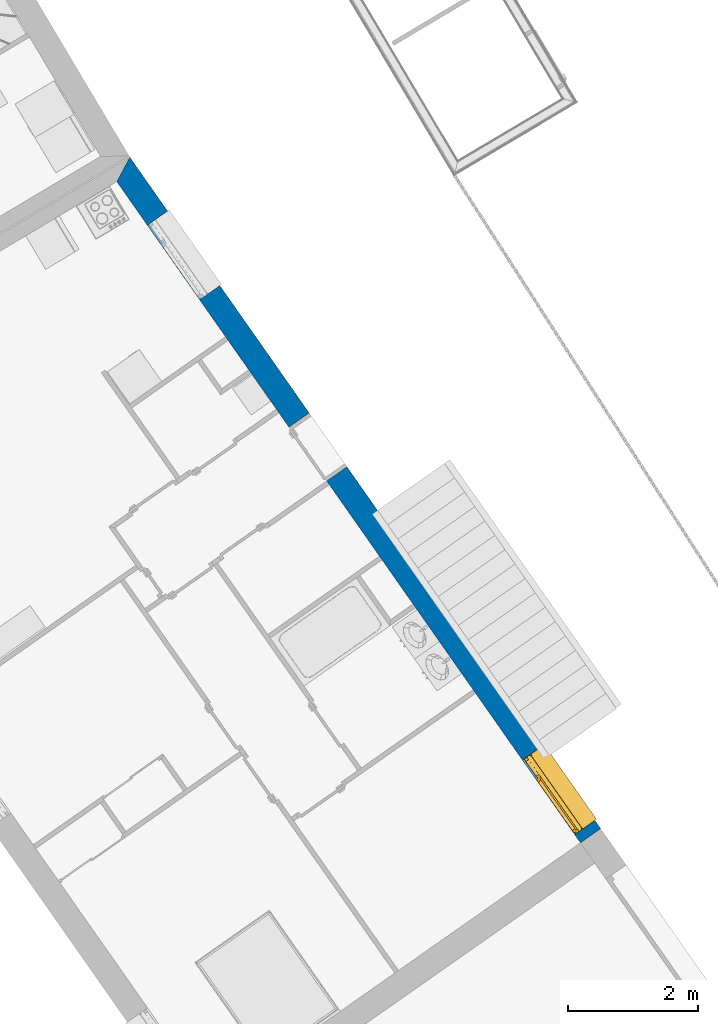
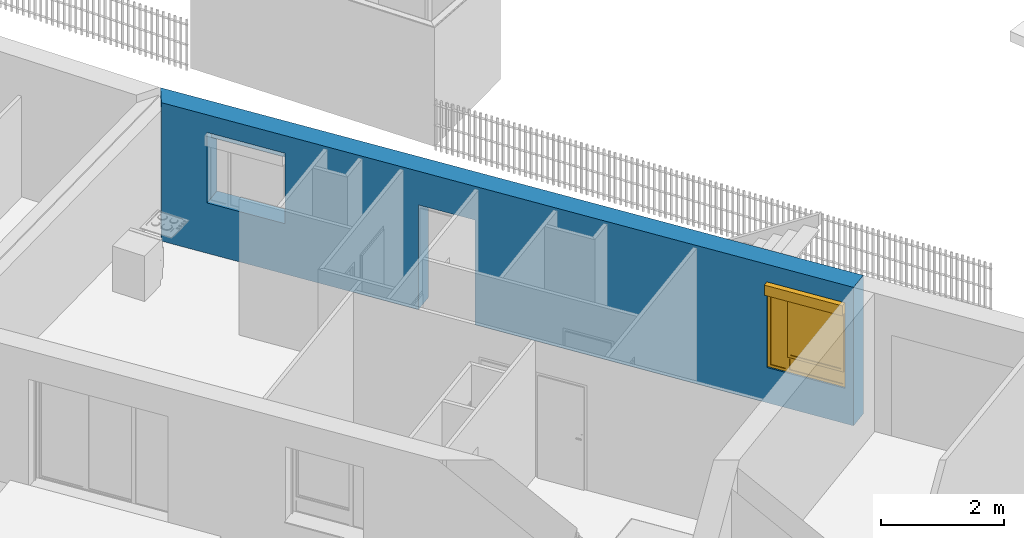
# One storey, part 32 of 195: 1 wall, 1 window, 3 openings.
"""IFC2X3 building model written with IfcOpenShell, lengths in metres."""

import ifcopenshell
import ifcopenshell.guid

model = None  # the IFC model being written
_history = None  # IfcOwnerHistory: only IFC2X3 demands one
_inside = {}  # id of a spatial element -> (the spatial element, [elements in it])
_under = {}  # id of a project, library or spatial element -> (it, [spatial elements below it])
_declared = {}  # id of a project -> (the project, [libraries it declares])
_typed = {}  # id of a type object -> (the type object, [elements of that type])
_made_of = {}  # id of a material, layer set ... -> (it, [elements and type objects made of it])


def new_model(schema):
    """Start an empty IFC model of exactly this schema.

    Asked for "IFC4X3", IfcOpenShell would pick the latest addendum, in which some entities
    have other attributes; the version numbers below select the first issue.
    IFC2X3 requires an IfcOwnerHistory on every rooted entity: one is made here for all.
    """
    global model, _history
    if schema == "IFC4X3":
        model = ifcopenshell.file(schema_version=(4, 3, 0, 0))
    else:
        model = ifcopenshell.file(schema=schema)
    _inside.clear()
    _under.clear()
    _declared.clear()
    _typed.clear()
    _made_of.clear()
    _history = None
    if model.schema == "IFC2X3":
        org = make("IfcOrganization", Name="unknown")
        user = make(
            "IfcPersonAndOrganization",
            ThePerson=make("IfcPerson", FamilyName="unknown"),
            TheOrganization=org,
        )
        app = make(
            "IfcApplication",
            ApplicationDeveloper=org,
            Version="unknown",
            ApplicationFullName="unknown",
            ApplicationIdentifier="unknown",
        )
        _history = make(
            "IfcOwnerHistory",
            OwningUser=user,
            OwningApplication=app,
            ChangeAction="ADDED",
            CreationDate=0,
        )
    return model


def make(cls, **values):
    """One entity of the class cls with the attributes given. An attribute that is None is left unset."""
    return model.create_entity(
        cls, **{name: value for name, value in values.items() if value is not None}
    )


def entity(cls, *values):
    """Any entity or typed value of the class cls, its attributes in the order of the schema. None: left unset."""
    e = model.create_entity(cls)
    for i, value in enumerate(values):
        if value is not None:
            e[i] = value
    return e


def rooted(cls, **values):
    """An entity with a GlobalId (a new one), such as an element, a storey or a relation."""
    return make(cls, GlobalId=ifcopenshell.guid.new(), OwnerHistory=_history, **values)


def si_unit(unit_type, name, prefix=None):
    """IfcSIUnit, for example si_unit("LENGTHUNIT", "METRE", prefix="MILLI")."""
    return make("IfcSIUnit", UnitType=unit_type, Prefix=prefix, Name=name)


def converted_unit(unit_type, name, factor, base, dimensions=None, offset=None):
    """IfcConversionBasedUnit, such as the inch: factor (a typed value) times the base unit."""
    return make(
        "IfcConversionBasedUnit"
        if offset is None
        else "IfcConversionBasedUnitWithOffset",
        ConversionOffset=offset,
        Dimensions=None
        if dimensions is None
        else entity("IfcDimensionalExponents", *dimensions),
        UnitType=unit_type,
        Name=name,
        ConversionFactor=make(
            "IfcMeasureWithUnit", ValueComponent=factor, UnitComponent=base
        ),
    )


def derived_unit(unit_type, elements):
    """IfcDerivedUnit: a product of units, each with its exponent."""
    return make(
        "IfcDerivedUnit",
        Elements=[
            make("IfcDerivedUnitElement", Unit=unit, Exponent=power)
            for unit, power in elements
        ],
        UnitType=unit_type,
    )


def money_unit(currency):
    """IfcMonetaryUnit."""
    return make("IfcMonetaryUnit", Currency=currency)


def assignment(units):
    """IfcUnitAssignment: the units of a project."""
    return None if units is None else make("IfcUnitAssignment", Units=units)


def point(xyz):
    """IfcCartesianPoint."""
    return None if xyz is None else make("IfcCartesianPoint", Coordinates=xyz)


def direction(xyz):
    """IfcDirection."""
    return None if xyz is None else make("IfcDirection", DirectionRatios=xyz)


def frame(location, z_axis=None, x_axis=None):
    """IfcAxis2Placement3D, a coordinate frame: its origin and axes. An axis left out is left unset."""
    return make(
        "IfcAxis2Placement3D",
        Location=point(location),
        Axis=direction(z_axis),
        RefDirection=direction(x_axis),
    )


def frame_2d(location, x_axis=None):
    """IfcAxis2Placement2D, a coordinate frame in the plane: its origin and x axis."""
    return make(
        "IfcAxis2Placement2D", Location=point(location), RefDirection=direction(x_axis)
    )


def origin_with_axes():
    """The frame at (0, 0, 0) with the z axis (0, 0, 1) and the x axis (1, 0, 0) written out."""
    return frame((0.0, 0.0, 0.0), z_axis=(0.0, 0.0, 1.0), x_axis=(1.0, 0.0, 0.0))


def origin_2d_with_axis():
    """The frame at (0, 0) in the plane with the x axis (1, 0) written out."""
    return frame_2d((0.0, 0.0), x_axis=(1.0, 0.0))


def place(relative_to, where):
    """IfcLocalPlacement: puts the frame where relative to a parent placement (None: the world)."""
    return make(
        "IfcLocalPlacement", PlacementRelTo=relative_to, RelativePlacement=where
    )


def context(
    kind, dimensions, precision=None, world=None, true_north=None, identifier=None
):
    """IfcGeometricRepresentationContext, for example the 3D "Model" context."""
    return make(
        "IfcGeometricRepresentationContext",
        ContextIdentifier=identifier,
        ContextType=kind,
        CoordinateSpaceDimension=dimensions,
        Precision=precision,
        WorldCoordinateSystem=world,
        TrueNorth=true_north,
    )


def subcontext(parent, identifier, kind, view, scale=None):
    """IfcGeometricRepresentationSubContext, for example "Body" below "Model"."""
    return make(
        "IfcGeometricRepresentationSubContext",
        ContextIdentifier=identifier,
        ContextType=kind,
        ParentContext=parent,
        TargetScale=scale,
        TargetView=view,
    )


def project(units=None, contexts=None):
    """IfcProject with its units and contexts."""
    return rooted(
        "IfcProject",
        Name="project",
        RepresentationContexts=contexts,
        UnitsInContext=assignment(units),
    )


def spatial(cls, under=None, at=None, **own):
    """A site, building, storey or space (cls), placed at a placement, below another one or the project."""
    s = rooted(cls, ObjectPlacement=at, **own)
    if under is not None:
        _under.setdefault(under.id(), (under, []))[1].append(s)
    return s


def polyline(points):
    """IfcPolyline through the points."""
    return make("IfcPolyline", Points=[point(p) for p in points])


def profile(cls, at=None, kind="AREA", **sizes):
    """A parametric profile (cls). Its sizes go by their IFC names, for example OverallWidth=200.0."""
    return make(cls, ProfileType=kind, Position=at, **sizes)


def rectangle(**sizes):
    """IfcRectangleProfileDef."""
    return profile("IfcRectangleProfileDef", **sizes)


def outline(outer, holes=None, kind="AREA"):
    """IfcArbitraryClosedProfileDef: a profile drawn as a closed curve; with holes, ...WithVoids."""
    if holes is None:
        return make("IfcArbitraryClosedProfileDef", ProfileType=kind, OuterCurve=outer)
    return make(
        "IfcArbitraryProfileDefWithVoids",
        ProfileType=kind,
        OuterCurve=outer,
        InnerCurves=holes,
    )


def extrude(swept, where, along, depth):
    """IfcExtrudedAreaSolid: the profile swept, set in the frame where, extruded along a direction by depth."""
    return make(
        "IfcExtrudedAreaSolid",
        SweptArea=swept,
        Position=where,
        ExtrudedDirection=direction(along),
        Depth=depth,
    )


def faces_of(points, faces, orient=None, outer=None):
    """IfcFace entities. A face is a list of loops; a loop is a list of indices into points, from 0.

    orient and outer hold one flag for each loop. By default every Orientation is true, the
    first loop of a face is its IfcFaceOuterBound and the others are IfcFaceBound.
    """
    made = []
    for i, loops in enumerate(faces):
        bounds = []
        for j, loop in enumerate(loops):
            is_outer = j == 0 if outer is None else outer[i][j]
            bounds.append(
                make(
                    "IfcFaceOuterBound" if is_outer else "IfcFaceBound",
                    Bound=make("IfcPolyLoop", Polygon=[points[k] for k in loop]),
                    Orientation=True if orient is None else orient[i][j],
                )
            )
        made.append(make("IfcFace", Bounds=bounds))
    return made


def open_shell(faces, orient=None, outer=None):
    """The faces of one IfcOpenShell. surface_model builds it on its shared points."""
    return ("IfcOpenShell", faces, orient, outer)


def faceted_brep(points, faces, orient=None, outer=None, voids=None):
    """IfcFacetedBrep: a solid bounded by flat faces; with voids (closed shells), ...WithVoids."""
    shared = [point(p) for p in points]
    hull = make("IfcClosedShell", CfsFaces=faces_of(shared, faces, orient, outer))
    if voids is None:
        return make("IfcFacetedBrep", Outer=hull)
    return make(
        "IfcFacetedBrepWithVoids",
        Outer=hull,
        Voids=[
            make(cls, CfsFaces=faces_of(shared, fs, o, b)) for cls, fs, o, b in voids
        ],
    )


def surface_model(cls, points, shells):
    """IfcFaceBasedSurfaceModel or IfcShellBasedSurfaceModel (cls): surfaces that need not close."""
    shared = [point(p) for p in points]
    made = [make(c, CfsFaces=faces_of(shared, fs, o, b)) for c, fs, o, b in shells]
    if cls == "IfcFaceBasedSurfaceModel":
        return make(cls, FbsmFaces=made)
    return make(cls, SbsmBoundary=made)


def shape(context_of_items, identifier, shape_type, items):
    """IfcShapeRepresentation: the items that make up one representation, for example the "Body"."""
    return make(
        "IfcShapeRepresentation",
        ContextOfItems=context_of_items,
        RepresentationIdentifier=identifier,
        RepresentationType=shape_type,
        Items=items,
    )


def source(mapping_origin, context_of_items, identifier, shape_type, items):
    """IfcRepresentationMap: a shape defined once, which mapped items show again and again."""
    return make(
        "IfcRepresentationMap",
        MappingOrigin=mapping_origin,
        MappedRepresentation=shape(context_of_items, identifier, shape_type, items),
    )


def transform(
    local_origin,
    x_axis=None,
    y_axis=None,
    z_axis=None,
    scale=None,
    scale2=None,
    scale3=None,
    uniform=True,
):
    """IfcCartesianTransformationOperator3D, or its non-uniform kind. x_axis, y_axis, z_axis: its Axis1, 2, 3."""
    if uniform:
        return make(
            "IfcCartesianTransformationOperator3D",
            Axis1=direction(x_axis),
            Axis2=direction(y_axis),
            LocalOrigin=point(local_origin),
            Scale=scale,
            Axis3=direction(z_axis),
        )
    return make(
        "IfcCartesianTransformationOperator3DnonUniform",
        Axis1=direction(x_axis),
        Axis2=direction(y_axis),
        LocalOrigin=point(local_origin),
        Scale=scale,
        Axis3=direction(z_axis),
        Scale2=scale2,
        Scale3=scale3,
    )


def mapped(mapping_source, mapping_target):
    """IfcMappedItem: shows the shape of a source again, moved by a transform."""
    return make(
        "IfcMappedItem", MappingSource=mapping_source, MappingTarget=mapping_target
    )


def material(Name=None, Category=None):
    """IfcMaterial."""
    return make("IfcMaterial", Name=Name, Category=Category)


def layer(
    of_material, thickness, ventilated=None, Name=None, Category=None, Priority=None
):
    """IfcMaterialLayer: one layer of a wall or slab, of a material (None: an air gap)."""
    return make(
        "IfcMaterialLayer",
        Material=of_material,
        LayerThickness=thickness,
        IsVentilated=ventilated,
        Name=Name,
        Category=Category,
        Priority=Priority,
    )


def layer_set(layers, Name=None):
    """IfcMaterialLayerSet."""
    return make("IfcMaterialLayerSet", MaterialLayers=layers, LayerSetName=Name)


def layer_usage(for_layer_set, set_direction, sense, offset, extent=None):
    """IfcMaterialLayerSetUsage: how a layer set lies in its element."""
    return make(
        "IfcMaterialLayerSetUsage",
        ForLayerSet=for_layer_set,
        LayerSetDirection=set_direction,
        DirectionSense=sense,
        OffsetFromReferenceLine=offset,
        ReferenceExtent=extent,
    )


def made_of(thing, what):
    """Note that an element or type object is made of a material, layer set ...; save() writes the relation."""
    if what is not None:
        _made_of.setdefault(what.id(), (what, []))[1].append(thing)
    return thing


def type_object(cls, material=None, **own):
    """A type object (cls), such as IfcWallType, which elements share."""
    return made_of(rooted(cls, **own), material)


def element(
    cls,
    number,
    at=None,
    inside=None,
    cuts=None,
    type_object=None,
    material=None,
    context=None,
    identifier="Body",
    shape_type=None,
    held_by="IfcProductDefinitionShape",
    body=None,
    shapes=None,
    **own,
):
    """One element of the class cls, such as IfcWall. Its Tag is "e" and its number.

    at: its placement. inside: the storey or other place that contains it. cuts: it is an
    opening in that element (IfcRelVoidsElement). A single representation is given by context,
    identifier, shape_type and body (its items); several are given by shapes. held_by: the class
    of the entity that holds the representations. save() writes the other relations.
    """
    e = rooted(cls, Tag="e%d" % number, ObjectPlacement=at, **own)
    if body is not None:
        shapes = [shape(context, identifier, shape_type, body)]
    if shapes is not None:
        e.Representation = make(held_by, Representations=shapes)
    if inside is not None:
        _inside.setdefault(inside.id(), (inside, []))[1].append(e)
    if cuts is not None:
        rooted(
            "IfcRelVoidsElement", RelatingBuildingElement=cuts, RelatedOpeningElement=e
        )
    if type_object is not None:
        _typed.setdefault(type_object.id(), (type_object, []))[1].append(e)
    return made_of(e, material)


def fill(opening, filler):
    """IfcRelFillsElement: the door or window that sits in an opening."""
    return rooted(
        "IfcRelFillsElement",
        RelatingOpeningElement=opening,
        RelatedBuildingElement=filler,
    )


def aggregate(whole, parts):
    """IfcRelAggregates: a whole, such as a stair, and the parts it consists of."""
    return rooted("IfcRelAggregates", RelatingObject=whole, RelatedObjects=parts)


def save(model, path):
    """Write the relations noted so far, then the file.

    IfcRelAggregates (storeys below a building ...), IfcRelContainedInSpatialStructure (elements
    in a storey), IfcRelDefinesByType, IfcRelAssociatesMaterial and IfcRelDeclares: one each for
    every whole, place, type object, material and project.
    """
    for whole, parts in _under.values():
        aggregate(whole, parts)
    for where, things in _inside.values():
        rooted(
            "IfcRelContainedInSpatialStructure",
            RelatedElements=things,
            RelatingStructure=where,
        )
    for kind, things in _typed.values():
        rooted("IfcRelDefinesByType", RelatedObjects=things, RelatingType=kind)
    for what, things in _made_of.values():
        rooted("IfcRelAssociatesMaterial", RelatedObjects=things, RelatingMaterial=what)
    for by, libraries in _declared.values():
        rooted("IfcRelDeclares", RelatingContext=by, RelatedDefinitions=libraries)
    model.write(path)


model = new_model("IFC2X3")

# Units and contexts
model_context = context("Model", 3, precision=1e-05, world=origin_with_axes(), true_north=direction((0.0, 1.0)))
body_context = subcontext(model_context, "Body", "Model", "MODEL_VIEW")
ifc_project = project(units=[si_unit("LENGTHUNIT", "METRE"), si_unit("AREAUNIT", "SQUARE_METRE"), si_unit("VOLUMEUNIT", "CUBIC_METRE"), converted_unit("PLANEANGLEUNIT", "DEGREE", entity("IfcPlaneAngleMeasure", 0.0174532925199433), si_unit("PLANEANGLEUNIT", "RADIAN"), dimensions=[0, 0, 0, 0, 0, 0, 0]), money_unit("CHF"), converted_unit("TIMEUNIT", "Year", entity("IfcTimeMeasure", 31557600.0), si_unit("TIMEUNIT", "SECOND"), dimensions=[0, 0, 1, 0, 0, 0, 0]), si_unit("MASSUNIT", "GRAM", prefix="KILO"), si_unit("THERMODYNAMICTEMPERATUREUNIT", "DEGREE_CELSIUS"), si_unit("LUMINOUSINTENSITYUNIT", "LUMEN"), si_unit("ENERGYUNIT", "JOULE", prefix="MEGA"), derived_unit("THERMALCONDUCTANCEUNIT", [(si_unit("POWERUNIT", "WATT"), 1), (si_unit("LENGTHUNIT", "METRE"), -1), (si_unit("THERMODYNAMICTEMPERATUREUNIT", "KELVIN"), -1)]), derived_unit("SPECIFICHEATCAPACITYUNIT", [(si_unit("ENERGYUNIT", "JOULE"), 1), (si_unit("MASSUNIT", "GRAM", prefix="KILO"), -1), (si_unit("THERMODYNAMICTEMPERATUREUNIT", "KELVIN"), -1)]), derived_unit("MASSDENSITYUNIT", [(si_unit("MASSUNIT", "GRAM", prefix="KILO"), 1), (si_unit("VOLUMEUNIT", "CUBIC_METRE"), -1)])], contexts=[model_context])

# Site, building, storey
site_placement = place(None, origin_with_axes())
site = spatial("IfcSite", under=ifc_project, at=site_placement, Name="Site", CompositionType="ELEMENT")
building_placement = place(site_placement, origin_with_axes())
building = spatial("IfcBuilding", under=site, at=building_placement, Name="Bâtiment", CompositionType="ELEMENT")
storey_placement = place(building_placement, origin_with_axes())
storey = spatial("IfcBuildingStorey", under=building, at=storey_placement, Name="rdc", CompositionType="ELEMENT", Elevation=0.0)

# Wall, openings, window
ifc_material_1 = material(Name="Parpaing 312445824")
ifc_layer_1 = layer(ifc_material_1, 0.22, ventilated="UNKNOWN")
ifc_material_2 = material(Name="Isolant styromousse 301821074")
ifc_layer_2 = layer(ifc_material_2, 0.16, ventilated="UNKNOWN")
ifc_layer_set = layer_set([ifc_layer_1, ifc_layer_2], Name="isol int 22+16 0836643197")
ifc_layer_usage = layer_usage(ifc_layer_set, "AXIS2", "POSITIVE", 0.0)
wall_type = type_object("IfcWallType", Name="isol int 22+16 0836643197 380", PredefinedType="NOTDEFINED")
wall_placement = place(storey_placement, frame((9557.07303788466, -1061.614568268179, 57.7), z_axis=(0.0, 0.0, 1.0), x_axis=(-0.574159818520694, 0.8187432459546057, 0.0)))
wall = element("IfcWallStandardCase", 1, at=wall_placement, inside=storey, type_object=wall_type, material=ifc_layer_usage, Name="Mur-113", context=body_context, shape_type="SweptSolid", body=[
    extrude(outline(polyline([(0.0, 0.0), (12.61434939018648, 0.0), (12.42201370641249, 0.3799999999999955), (0.0, 0.3799999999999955), (0.0, 0.0)])), origin_with_axes(), (0.0, 0.0, 1.0), 2.75),
])
opening_1_placement = place(wall_placement, frame((0.8554378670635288, 0.0, 0.7000000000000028), z_axis=(0.0, 0.0, 1.0), x_axis=(1.0, 0.0, 0.0)))
opening_1 = element("IfcOpeningElement", 2, at=opening_1_placement, cuts=wall, Name="Fen-045", context=body_context, shape_type="Brep", body=[
    faceted_brep([(0.7000000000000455, 0.2200000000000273, 1.5), (-0.6999999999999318, 0.2200000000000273, 1.5), (-0.6999999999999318, -5.930872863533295, 1.5), (0.7000000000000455, -5.930872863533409, 1.5), (0.7000000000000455, 0.2200000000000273, 1.700000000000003), (-0.6999999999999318, 0.2200000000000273, 1.700000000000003), (-0.7000000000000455, 0.2999999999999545, 1.5), (-0.7000000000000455, 0.2999999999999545, 0.0), (-0.6999999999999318, -5.930872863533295, 0.0), (0.7000000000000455, -5.930872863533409, 0.0), (0.7000000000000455, 0.2999999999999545, 1.5), (0.7000000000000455, 0.2999999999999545, 0.0), (0.7000000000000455, 0.4799999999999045, 1.5), (0.7000000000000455, 0.4799999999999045, 1.700000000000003), (-0.7000000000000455, 0.4800000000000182, 1.700000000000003), (-0.7000000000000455, 0.4800000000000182, 1.5), (-0.6999999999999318, 6.310872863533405, 1.5), (-0.6999999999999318, 6.310872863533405, 0.0), (0.7000000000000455, 6.310872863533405, 0.0), (0.7000000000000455, 6.310872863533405, 1.5)], [[[0, 1, 2, 3]], [[1, 0, 4, 5]], [[1, 6, 7, 8, 2]], [[2, 8, 9, 3]], [[10, 0, 3, 9, 11]], [[0, 10, 12, 13, 4]], [[4, 13, 14, 5]], [[6, 1, 5, 14, 15]], [[6, 15, 16, 17, 7]], [[7, 11, 9, 8]], [[12, 10, 11, 18, 19]], [[12, 15, 14, 13]], [[15, 12, 19, 16]], [[19, 18, 17, 16]], [[11, 7, 17, 18]]]),
])
opening_2_placement = place(wall_placement, frame((10.90187517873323, 0.0, 1.0), z_axis=(0.0, 0.0, 1.0), x_axis=(1.0, 0.0, 0.0)))
element("IfcOpeningElement", 3, at=opening_2_placement, cuts=wall, Name="Fen-045", context=body_context, shape_type="Brep", body=[
    faceted_brep([(0.7000000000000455, 0.2199999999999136, 1.200000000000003), (-0.6999999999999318, 0.2199999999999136, 1.200000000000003), (-0.6999999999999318, -5.930872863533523, 1.200000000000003), (0.7000000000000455, -5.930872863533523, 1.200000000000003), (0.7000000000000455, 0.2199999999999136, 1.399999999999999), (-0.6999999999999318, 0.2199999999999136, 1.399999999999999), (-0.6999999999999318, 0.2999999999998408, 1.200000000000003), (-0.7000000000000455, 0.2999999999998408, 0.0), (-0.6999999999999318, -5.930872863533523, 0.0), (0.7000000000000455, -5.930872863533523, 0.0), (0.7000000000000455, 0.2999999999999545, 1.200000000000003), (0.7000000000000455, 0.2999999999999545, 0.0), (0.7000000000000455, 0.4799999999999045, 1.200000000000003), (0.7000000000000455, 0.4799999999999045, 1.399999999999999), (-0.7000000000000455, 0.4799999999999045, 1.399999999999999), (-0.7000000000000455, 0.4799999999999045, 1.200000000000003), (-0.7000000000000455, 6.31087286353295, 1.200000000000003), (-0.7000000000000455, 6.31087286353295, 0.0), (0.7000000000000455, 6.310872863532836, 0.0), (0.7000000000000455, 6.310872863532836, 1.200000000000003)], [[[0, 1, 2, 3]], [[1, 0, 4, 5]], [[1, 6, 7, 8, 2]], [[2, 8, 9, 3]], [[10, 0, 3, 9, 11]], [[0, 10, 12, 13, 4]], [[4, 13, 14, 5]], [[6, 1, 5, 14, 15]], [[6, 15, 16, 17, 7]], [[7, 11, 9, 8]], [[12, 10, 11, 18, 19]], [[12, 15, 14, 13]], [[15, 12, 19, 16]], [[19, 18, 17, 16]], [[11, 7, 17, 18]]]),
])
opening_3_placement = place(wall_placement, frame((7.303138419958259, 0.0, 0.0), z_axis=(0.0, 0.0, 1.0), x_axis=(1.0, 0.0, 0.0)))
element("IfcOpeningElement", 4, at=opening_3_placement, cuts=wall, Name="Por-290", context=body_context, shape_type="SweptSolid", body=[
    extrude(rectangle(XDim=1.01000001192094, YDim=2.079999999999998, at=origin_2d_with_axis()), frame((-5.960487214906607e-09, -0.3800000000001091, 1.039999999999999), z_axis=(0.0, -1.0, 0.0), x_axis=(-1.0, 0.0, 0.0)), (0.0, 0.0, -1.0), 0.76),
])
window_style = type_object("IfcWindowStyle", Name="Fenêtre variable 27", ConstructionType="NOTDEFINED", OperationType="TRIPLE_PANEL_RIGHT", ParameterTakesPrecedence=False, Sizeable=False)
shared_shape = source(origin_with_axes(), body_context, "Body", "SurfaceModel", [
    surface_model("IfcShellBasedSurfaceModel", [(-0.7, -0.05100000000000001, 0.05), (-0.7, -0.05100000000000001, 0.04), (0.7, -0.05100000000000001, 0.04000000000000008), (0.7, -0.05100000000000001, 0.05000000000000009), (-0.7, -0.3799999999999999, 0.02899999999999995), (0.7, -0.3799999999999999, 0.02900000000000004), (-0.7, -0.3799999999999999, 0.008999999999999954), (0.7, -0.3799999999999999, 0.00900000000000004), (-0.7, -0.3699999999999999, 0.01899999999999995), (0.7, -0.3699999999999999, 0.01900000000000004)], [open_shell([[[0, 1, 2, 3]], [[1, 4, 5, 2]], [[4, 6, 7, 5]], [[6, 8, 9, 7]]])]),
    faceted_brep([(-0.7, -0.13, 1.7), (-0.697, -0.13, 1.7), (-0.697, 0.13, 1.7), (-0.7, 0.13, 1.7), (-0.7, -0.13, 1.5), (-0.697, -0.13, 1.5), (-0.697, 0.13, 1.5), (-0.7, 0.13, 1.5)], [[[0, 1, 2, 3]], [[4, 5, 1, 0]], [[1, 5, 6, 2]], [[3, 2, 6, 7]], [[0, 3, 7, 4]], [[7, 6, 5, 4]]]),
    faceted_brep([(0.6970000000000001, -0.1299999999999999, 1.7), (0.7000000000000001, -0.1299999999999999, 1.7), (0.7000000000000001, 0.1300000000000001, 1.7), (0.6970000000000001, 0.1300000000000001, 1.7), (0.6970000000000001, -0.1299999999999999, 1.5), (0.7000000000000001, -0.1299999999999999, 1.5), (0.7000000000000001, 0.1300000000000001, 1.5), (0.6970000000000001, 0.1300000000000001, 1.5)], [[[0, 1, 2, 3]], [[4, 5, 1, 0]], [[1, 5, 6, 2]], [[3, 2, 6, 7]], [[0, 3, 7, 4]], [[7, 6, 5, 4]]]),
    faceted_brep([(-0.697, -0.13, 1.5), (0.697, -0.1299999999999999, 1.5), (0.697, -0.1299999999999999, 1.7), (-0.697, -0.13, 1.7), (-0.697, -0.127, 1.5), (0.697, -0.1269999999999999, 1.5), (0.697, -0.1269999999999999, 1.697), (0.697, 0.1270000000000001, 1.697), (0.697, 0.1270000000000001, 1.503), (0.697, -0.1079999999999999, 1.503), (0.697, -0.1079999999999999, 1.5), (0.697, 0.1300000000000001, 1.5), (0.697, 0.1300000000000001, 1.7), (-0.697, 0.13, 1.7), (-0.697, 0.13, 1.5), (-0.697, -0.108, 1.5), (-0.697, -0.108, 1.503), (-0.697, 0.127, 1.503), (-0.697, 0.127, 1.697), (-0.697, -0.127, 1.697)], [[[0, 1, 2, 3]], [[4, 5, 1, 0]], [[1, 5, 6, 7, 8, 9, 10, 11, 12, 2]], [[3, 2, 12, 13]], [[0, 3, 13, 14, 15, 16, 17, 18, 19, 4]], [[19, 6, 5, 4]], [[18, 7, 6, 19]], [[17, 8, 7, 18]], [[16, 9, 8, 17]], [[15, 10, 9, 16]], [[14, 11, 10, 15]], [[13, 12, 11, 14]]]),
    faceted_brep([(-0.694, -0.08075423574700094, 1.585760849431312), (-0.694, -0.08200000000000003, 1.6), (-0.694, -0.0807542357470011, 1.614239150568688), (-0.694, -0.07705479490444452, 1.628045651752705), (-0.694, -0.07101408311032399, 1.641), (-0.694, -0.06281564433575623, 1.652708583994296), (-0.694, -0.05270858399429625, 1.662815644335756), (-0.694, -0.04100000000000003, 1.671014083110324), (-0.694, -0.02804565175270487, 1.677054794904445), (-0.694, -0.01423915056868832, 1.680754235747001), (-0.694, 0.0, 1.682), (-0.694, 0.01423915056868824, 1.680754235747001), (-0.694, 0.02804565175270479, 1.677054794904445), (-0.694, 0.04099999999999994, 1.671014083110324), (-0.694, 0.05270858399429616, 1.662815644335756), (-0.694, 0.06281564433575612, 1.652708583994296), (-0.694, 0.07101408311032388, 1.641), (-0.694, 0.0770547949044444, 1.628045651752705), (-0.694, 0.08075423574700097, 1.614239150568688), (-0.694, 0.0819999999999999, 1.6), (-0.694, 0.08075423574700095, 1.585760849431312), (-0.694, 0.07705479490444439, 1.571954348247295), (-0.694, 0.07101408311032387, 1.559), (-0.694, 0.06281564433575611, 1.547291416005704), (-0.694, 0.05270858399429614, 1.537184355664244), (-0.694, 0.04099999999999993, 1.528985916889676), (-0.694, 0.02804565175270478, 1.522945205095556), (-0.694, 0.01423915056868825, 1.519245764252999), (-0.694, 0.0, 1.518), (-0.694, -0.01423915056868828, 1.519245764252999), (-0.694, -0.02804565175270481, 1.522945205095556), (-0.694, -0.04099999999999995, 1.528985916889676), (-0.694, -0.05270858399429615, 1.537184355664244), (-0.694, -0.06281564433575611, 1.547291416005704), (-0.694, -0.07101408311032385, 1.559), (-0.694, -0.07705479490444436, 1.571954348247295), (0.694, -0.08075423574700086, 1.585760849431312), (0.694, -0.08199999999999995, 1.6), (0.694, -0.08075423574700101, 1.614239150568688), (0.694, -0.07705479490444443, 1.628045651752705), (0.694, -0.07101408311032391, 1.641), (0.694, -0.06281564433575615, 1.652708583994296), (0.694, -0.05270858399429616, 1.662815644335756), (0.694, -0.04099999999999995, 1.671014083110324), (0.694, -0.02804565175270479, 1.677054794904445), (0.694, -0.01423915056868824, 1.680754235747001), (0.694, 0.0, 1.682), (0.694, 0.01423915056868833, 1.680754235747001), (0.694, 0.02804565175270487, 1.677054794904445), (0.694, 0.04100000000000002, 1.671014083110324), (0.694, 0.05270858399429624, 1.662815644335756), (0.694, 0.0628156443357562, 1.652708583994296), (0.694, 0.07101408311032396, 1.641), (0.694, 0.07705479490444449, 1.628045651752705), (0.694, 0.08075423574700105, 1.614239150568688), (0.694, 0.08199999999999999, 1.6), (0.694, 0.08075423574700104, 1.585760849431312), (0.694, 0.07705479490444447, 1.571954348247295), (0.694, 0.07101408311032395, 1.559), (0.694, 0.06281564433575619, 1.547291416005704), (0.694, 0.05270858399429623, 1.537184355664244), (0.694, 0.04100000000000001, 1.528985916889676), (0.694, 0.02804565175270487, 1.522945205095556), (0.694, 0.01423915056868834, 1.519245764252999), (0.694, 0.0, 1.518), (0.694, -0.0142391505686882, 1.519245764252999), (0.694, -0.02804565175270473, 1.522945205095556), (0.694, -0.04099999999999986, 1.528985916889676), (0.694, -0.05270858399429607, 1.537184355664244), (0.694, -0.06281564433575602, 1.547291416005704), (0.694, -0.07101408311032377, 1.559), (0.694, -0.07705479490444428, 1.571954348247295)], [[[0, 1, 2, 3, 4, 5, 6, 7, 8, 9, 10, 11, 12, 13, 14, 15, 16, 17, 18, 19, 20, 21, 22, 23, 24, 25, 26, 27, 28, 29, 30, 31, 32, 33, 34, 35]], [[0, 36, 37, 1]], [[1, 37, 38, 2]], [[2, 38, 39, 3]], [[3, 39, 40, 4]], [[4, 40, 41, 5]], [[5, 41, 42, 6]], [[6, 42, 43, 7]], [[7, 43, 44, 8]], [[8, 44, 45, 9]], [[9, 45, 46, 10]], [[10, 46, 47, 11]], [[11, 47, 48, 12]], [[12, 48, 49, 13]], [[13, 49, 50, 14]], [[14, 50, 51, 15]], [[15, 51, 52, 16]], [[16, 52, 53, 17]], [[17, 53, 54, 18]], [[18, 54, 55, 19]], [[19, 55, 56, 20]], [[20, 56, 57, 21]], [[21, 57, 58, 22]], [[22, 58, 59, 23]], [[23, 59, 60, 24]], [[24, 60, 61, 25]], [[25, 61, 62, 26]], [[26, 62, 63, 27]], [[27, 63, 64, 28]], [[28, 64, 65, 29]], [[29, 65, 66, 30]], [[30, 66, 67, 31]], [[31, 67, 68, 32]], [[32, 68, 69, 33]], [[33, 69, 70, 34]], [[34, 70, 71, 35]], [[35, 71, 36, 0]], [[36, 71, 70, 69, 68, 67, 66, 65, 64, 63, 62, 61, 60, 59, 58, 57, 56, 55, 54, 53, 52, 51, 50, 49, 48, 47, 46, 45, 44, 43, 42, 41, 40, 39, 38, 37]]]),
    faceted_brep([(0.7, -0.105, 0.03), (0.7, -0.1049999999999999, 1.5), (0.7, -0.1299999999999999, 1.5), (0.7, -0.13, 0.03), (0.6749999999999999, -0.105, 0.03), (0.6749999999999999, -0.1049999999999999, 1.5), (0.6749999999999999, -0.1079999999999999, 1.5), (0.697, -0.1079999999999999, 1.5), (0.697, -0.1269999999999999, 1.5), (0.6749999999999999, -0.1269999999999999, 1.5), (0.6749999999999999, -0.1299999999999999, 1.5), (0.6749999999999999, -0.13, 0.03), (0.6749999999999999, -0.127, 0.03), (0.697, -0.127, 0.03), (0.697, -0.108, 0.03), (0.6749999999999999, -0.108, 0.03)], [[[0, 1, 2, 3]], [[4, 5, 1, 0]], [[1, 5, 6, 7, 8, 9, 10, 2]], [[3, 2, 10, 11]], [[0, 3, 11, 12, 13, 14, 15, 4]], [[15, 6, 5, 4]], [[14, 7, 6, 15]], [[13, 8, 7, 14]], [[12, 9, 8, 13]], [[11, 10, 9, 12]]]),
    faceted_brep([(-0.7, -0.105, 0.03), (-0.7, -0.13, 0.03), (-0.7, -0.1299999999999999, 1.5), (-0.7, -0.1049999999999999, 1.5), (-0.6749999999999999, -0.105, 0.03), (-0.6749999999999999, -0.108, 0.03), (-0.697, -0.108, 0.03), (-0.697, -0.127, 0.03), (-0.6749999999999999, -0.127, 0.03), (-0.6749999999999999, -0.13, 0.03), (-0.6749999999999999, -0.1299999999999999, 1.5), (-0.6749999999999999, -0.1269999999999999, 1.5), (-0.697, -0.1269999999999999, 1.5), (-0.697, -0.1079999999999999, 1.5), (-0.6749999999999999, -0.1079999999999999, 1.5), (-0.6749999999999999, -0.1049999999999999, 1.5)], [[[0, 1, 2, 3]], [[0, 4, 5, 6, 7, 8, 9, 1]], [[1, 9, 10, 2]], [[3, 2, 10, 11, 12, 13, 14, 15]], [[4, 0, 3, 15]], [[5, 4, 15, 14]], [[6, 5, 14, 13]], [[7, 6, 13, 12]], [[8, 7, 12, 11]], [[9, 8, 11, 10]]]),
    surface_model("IfcShellBasedSurfaceModel", [(-0.697, -0.115, 1.6), (0.697, -0.1149999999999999, 1.6), (0.697, -0.1199999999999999, 1.6), (-0.697, -0.12, 1.6), (-0.697, -0.115, 1.6), (-0.697, -0.12, 1.6), (0.697, -0.12, 1.6), (0.697, -0.1149999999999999, 1.6)], [open_shell([[[0, 1, 2, 3]], [[4, 5, 6, 7]]])]),
    faceted_brep([(-0.697, -0.115, 1.6), (0.697, -0.1149999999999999, 1.6), (0.697, -0.1166666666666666, 1.583333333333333), (-0.697, -0.1166666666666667, 1.583333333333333), (-0.697, -0.12, 1.6), (0.697, -0.1199999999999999, 1.6), (0.697, -0.1216666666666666, 1.583333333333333), (0.697, -0.1216666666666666, 1.566666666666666), (0.697, -0.1199999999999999, 1.55), (0.697, -0.1149999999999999, 1.55), (0.697, -0.1166666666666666, 1.566666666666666), (-0.697, -0.1166666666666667, 1.566666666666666), (-0.697, -0.115, 1.55), (-0.697, -0.12, 1.55), (-0.697, -0.1216666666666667, 1.566666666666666), (-0.697, -0.1216666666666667, 1.583333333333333)], [[[0, 1, 2, 3]], [[4, 5, 1, 0]], [[1, 5, 6, 7, 8, 9, 10, 2]], [[3, 2, 10, 11]], [[0, 3, 11, 12, 13, 14, 15, 4]], [[15, 6, 5, 4]], [[14, 7, 6, 15]], [[13, 8, 7, 14]], [[12, 9, 8, 13]], [[11, 10, 9, 12]]]),
    faceted_brep([(-0.697, -0.115, 1.55), (0.697, -0.1149999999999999, 1.55), (0.697, -0.1166666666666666, 1.533333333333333), (-0.697, -0.1166666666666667, 1.533333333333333), (-0.697, -0.12, 1.55), (0.697, -0.1199999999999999, 1.55), (0.697, -0.1216666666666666, 1.533333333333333), (0.697, -0.1216666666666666, 1.516666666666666), (0.697, -0.1199999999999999, 1.5), (0.697, -0.1149999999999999, 1.5), (0.697, -0.1166666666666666, 1.516666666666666), (-0.697, -0.1166666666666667, 1.516666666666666), (-0.697, -0.115, 1.5), (-0.697, -0.12, 1.5), (-0.697, -0.1216666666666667, 1.516666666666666), (-0.697, -0.1216666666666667, 1.533333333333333)], [[[0, 1, 2, 3]], [[4, 5, 1, 0]], [[1, 5, 6, 7, 8, 9, 10, 2]], [[3, 2, 10, 11]], [[0, 3, 11, 12, 13, 14, 15, 4]], [[15, 6, 5, 4]], [[14, 7, 6, 15]], [[13, 8, 7, 14]], [[12, 9, 8, 13]], [[11, 10, 9, 12]]]),
    faceted_brep([(-0.6749999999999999, 0.0, 1.45), (-0.7, 0.0, 1.45), (-0.7, -0.05000000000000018, 1.45), (-0.6499999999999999, -0.05000000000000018, 1.45), (-0.6499999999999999, -0.02500000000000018, 1.45), (-0.6749999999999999, -0.02500000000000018, 1.45), (-0.6749999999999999, 0.0, 0.3099999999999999), (-0.6499999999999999, 0.0, 0.3099999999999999), (-0.6499999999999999, 0.0, 0.265), (-0.6499999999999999, 0.0, 0.05000000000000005), (-0.7, 0.0, 0.05000000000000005), (-0.7, -0.05000000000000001, 0.05000000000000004), (-0.6499999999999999, -0.05000000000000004, 0.335), (-0.6499999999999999, -0.05000000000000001, 0.05000000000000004), (-0.6499999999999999, -0.05000000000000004, 0.265), (-0.6499999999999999, -0.02500000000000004, 0.335), (-0.6499999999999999, -0.02500000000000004, 0.3099999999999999), (-0.6749999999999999, -0.02500000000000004, 0.3099999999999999)], [[[0, 1, 2, 3, 4, 5]], [[6, 7, 8, 9, 10, 1, 0]], [[1, 10, 11, 2]], [[12, 3, 2, 11, 13, 14]], [[4, 3, 12, 15]], [[15, 16, 17, 5, 4]], [[5, 17, 6, 0]], [[6, 17, 16, 7]], [[16, 15, 12, 14, 8, 7]], [[9, 8, 14, 13]], [[10, 9, 13, 11]]]),
    faceted_brep([(0.3068894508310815, -0.02500000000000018, 1.45), (0.3068894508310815, -0.05000000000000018, 1.45), (0.3768894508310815, -0.05000000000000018, 1.45), (0.3768894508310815, 0.0, 1.45), (0.3318894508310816, 0.0, 1.45), (0.3318894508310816, -0.02500000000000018, 1.45), (0.3068894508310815, -0.02500000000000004, 0.335), (0.3068894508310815, -0.05000000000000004, 0.335), (0.3068894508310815, -0.05000000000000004, 0.265), (0.3068894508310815, -0.05000000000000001, 0.05000000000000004), (0.3768894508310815, -0.05000000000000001, 0.05000000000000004), (0.3768894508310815, 0.0, 0.05000000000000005), (0.3318894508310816, 0.0, 0.3099999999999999), (0.3068894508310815, 0.0, 0.05000000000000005), (0.3068894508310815, 0.0, 0.265), (0.3068894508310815, 0.0, 0.3099999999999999), (0.3318894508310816, -0.02500000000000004, 0.3099999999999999), (0.3068894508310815, -0.02500000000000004, 0.3099999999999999)], [[[0, 1, 2, 3, 4, 5]], [[6, 7, 1, 0]], [[8, 9, 10, 2, 1, 7]], [[11, 3, 2, 10]], [[12, 4, 3, 11, 13, 14, 15]], [[12, 16, 5, 4]], [[5, 16, 17, 6, 0]], [[17, 15, 14, 8, 7, 6]], [[14, 13, 9, 8]], [[13, 11, 10, 9]], [[15, 17, 16, 12]]]),
    faceted_brep([(-0.6499999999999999, -0.02500000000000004, 0.335), (-0.6499999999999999, -0.05000000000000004, 0.335), (0.3068894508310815, -0.05000000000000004, 0.335), (0.3068894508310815, -0.02500000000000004, 0.335), (-0.6499999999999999, -0.02500000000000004, 0.3099999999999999), (-0.6499999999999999, 0.0, 0.3099999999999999), (-0.6499999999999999, 0.0, 0.265), (-0.6499999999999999, -0.05000000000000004, 0.265), (0.3068894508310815, -0.05000000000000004, 0.265), (0.3068894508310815, -0.02500000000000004, 0.3099999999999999), (0.3068894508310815, 0.0, 0.265), (0.3068894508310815, 0.0, 0.3099999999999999)], [[[0, 1, 2, 3]], [[4, 5, 6, 7, 1, 0]], [[2, 1, 7, 8]], [[9, 3, 2, 8, 10, 11]], [[9, 4, 0, 3]], [[5, 4, 9, 11]], [[11, 10, 6, 5]], [[6, 10, 8, 7]]]),
    faceted_brep([(-0.6749999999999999, 0.0, 1.45), (-0.7, 0.0, 1.45), (-0.7, 0.0, 1.5), (0.7, 0.0, 1.5), (0.7, 0.0, 1.45), (0.6499999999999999, 0.0, 1.45), (0.3768894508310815, 0.0, 1.45), (0.3318894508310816, 0.0, 1.45), (0.3318894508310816, 0.0, 1.475), (-0.6749999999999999, 0.0, 1.475), (-0.6749999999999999, -0.02500000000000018, 1.45), (-0.6499999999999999, -0.02500000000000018, 1.45), (-0.6499999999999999, -0.05000000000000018, 1.45), (-0.7, -0.05000000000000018, 1.45), (-0.7, -0.05000000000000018, 1.5), (0.7, -0.05000000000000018, 1.5), (0.7, -0.05000000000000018, 1.45), (0.6499999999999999, -0.05000000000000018, 1.45), (0.3768894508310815, -0.05000000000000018, 1.45), (0.3318894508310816, -0.02500000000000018, 1.45), (0.3068894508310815, -0.05000000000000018, 1.45), (0.3068894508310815, -0.02500000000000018, 1.45), (0.3318894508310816, -0.02500000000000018, 1.475), (-0.6749999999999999, -0.02500000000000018, 1.475)], [[[0, 1, 2, 3, 4, 5, 6, 7, 8, 9]], [[10, 11, 12, 13, 1, 0]], [[2, 1, 13, 14]], [[3, 2, 14, 15]], [[4, 3, 15, 16]], [[5, 4, 16, 17]], [[6, 5, 17, 18]], [[19, 7, 6, 18, 20, 21]], [[7, 19, 22, 8]], [[8, 22, 23, 9]], [[9, 23, 10, 0]], [[21, 11, 10, 23, 22, 19]], [[21, 20, 12, 11]], [[18, 17, 16, 15, 14, 13, 12, 20]]]),
    faceted_brep([(0.6499999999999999, -0.05000000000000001, 0.05), (0.6499999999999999, 0.0, 0.05000000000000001), (0.7, 0.0, 0.05000000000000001), (0.7, -0.05000000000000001, 0.05), (0.6499999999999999, -0.05000000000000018, 1.45), (0.6499999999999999, 0.0, 1.45), (0.7, 0.0, 1.45), (0.7, -0.05000000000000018, 1.45)], [[[0, 1, 2, 3]], [[4, 5, 1, 0]], [[1, 5, 6, 2]], [[3, 2, 6, 7]], [[0, 3, 7, 4]], [[7, 6, 5, 4]]]),
    faceted_brep([(-0.6499999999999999, -0.05000000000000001, 0.05), (-0.6499999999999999, 0.0, 0.05000000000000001), (-0.7, 0.0, 0.05000000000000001), (-0.7, -0.05000000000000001, 0.05), (0.3068894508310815, -0.05000000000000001, 0.05), (0.3068894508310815, 0.0, 0.05000000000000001), (0.3768894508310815, 0.0, 0.05000000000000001), (0.6499999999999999, 0.0, 0.05000000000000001), (0.7, 0.0, 0.05000000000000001), (0.7, 0.0, 0.0), (-0.7, 0.0, 0.0), (-0.7, -0.05, 0.0), (0.7, -0.05, 0.0), (0.7, -0.05000000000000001, 0.05), (0.6499999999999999, -0.05000000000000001, 0.05), (0.3768894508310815, -0.05000000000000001, 0.05)], [[[0, 1, 2, 3]], [[4, 5, 1, 0]], [[1, 5, 6, 7, 8, 9, 10, 2]], [[3, 2, 10, 11]], [[0, 3, 11, 12, 13, 14, 15, 4]], [[15, 6, 5, 4]], [[14, 7, 6, 15]], [[13, 8, 7, 14]], [[12, 9, 8, 13]], [[11, 10, 9, 12]]]),
    faceted_brep([(-0.625, -0.02500000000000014, 1.425), (-0.625, 0.02499999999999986, 1.425), (-0.6749999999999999, 0.02499999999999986, 1.425), (-0.6749999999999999, -0.02500000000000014, 1.425), (-0.625, -0.02500000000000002, 0.3599999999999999), (-0.625, 0.02499999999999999, 0.3599999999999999), (-0.6749999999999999, 0.02499999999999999, 0.3599999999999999), (-0.6749999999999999, -0.02500000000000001, 0.3599999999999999)], [[[0, 1, 2, 3]], [[4, 5, 1, 0]], [[1, 5, 6, 2]], [[3, 2, 6, 7]], [[0, 3, 7, 4]], [[7, 6, 5, 4]]]),
    faceted_brep([(0.2818894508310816, -0.02500000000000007, 0.3599999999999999), (0.2818894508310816, 0.02499999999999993, 0.3599999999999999), (0.3318894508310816, 0.02499999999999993, 0.3599999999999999), (0.3318894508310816, -0.02500000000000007, 0.3599999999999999), (0.2818894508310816, -0.0250000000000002, 1.425), (0.2818894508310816, 0.0249999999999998, 1.425), (0.3318894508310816, 0.0249999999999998, 1.425), (0.3318894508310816, -0.0250000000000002, 1.425)], [[[0, 1, 2, 3]], [[4, 5, 1, 0]], [[1, 5, 6, 2]], [[3, 2, 6, 7]], [[0, 3, 7, 4]], [[7, 6, 5, 4]]]),
    faceted_brep([(0.3318894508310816, -0.02500000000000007, 0.3099999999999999), (0.3318894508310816, 0.02499999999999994, 0.3099999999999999), (0.3318894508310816, 0.02499999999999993, 0.3599999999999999), (0.3318894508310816, -0.02500000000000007, 0.3599999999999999), (-0.6749999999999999, -0.025, 0.3099999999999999), (-0.6749999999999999, 0.02499999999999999, 0.3099999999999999), (-0.6749999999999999, 0.02499999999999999, 0.3599999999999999), (-0.625, 0.02499999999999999, 0.3599999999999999), (0.2818894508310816, 0.02499999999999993, 0.3599999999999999), (0.2818894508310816, -0.02500000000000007, 0.3599999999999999), (-0.625, -0.02500000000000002, 0.3599999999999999), (-0.6749999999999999, -0.02500000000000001, 0.3599999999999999)], [[[0, 1, 2, 3]], [[4, 5, 1, 0]], [[1, 5, 6, 7, 8, 2]], [[3, 2, 8, 9]], [[0, 3, 9, 10, 11, 4]], [[11, 6, 5, 4]], [[10, 7, 6, 11]], [[9, 8, 7, 10]]]),
    faceted_brep([(-0.6749999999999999, -0.02500000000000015, 1.475), (-0.6749999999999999, 0.02499999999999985, 1.475), (-0.6749999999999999, 0.02499999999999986, 1.425), (-0.6749999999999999, -0.02500000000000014, 1.425), (0.3318894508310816, -0.02500000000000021, 1.475), (0.3318894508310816, 0.02499999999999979, 1.475), (0.3318894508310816, 0.0249999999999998, 1.425), (0.2818894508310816, 0.0249999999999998, 1.425), (-0.625, 0.02499999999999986, 1.425), (-0.625, -0.02500000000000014, 1.425), (0.2818894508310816, -0.0250000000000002, 1.425), (0.3318894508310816, -0.0250000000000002, 1.425)], [[[0, 1, 2, 3]], [[4, 5, 1, 0]], [[1, 5, 6, 7, 8, 2]], [[3, 2, 8, 9]], [[0, 3, 9, 10, 11, 4]], [[11, 6, 5, 4]], [[10, 7, 6, 11]], [[9, 8, 7, 10]]]),
    surface_model("IfcShellBasedSurfaceModel", [(-0.625, -0.01000000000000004, 0.3599999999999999), (0.2818894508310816, -0.01000000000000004, 0.3599999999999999), (0.2818894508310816, -0.01000000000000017, 1.425), (-0.625, -0.01000000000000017, 1.425)], [open_shell([[[0, 1, 2, 3]]])]),
    surface_model("IfcShellBasedSurfaceModel", [(-0.625, 0.009999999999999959, 0.3599999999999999), (-0.625, 0.00999999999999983, 1.425), (0.2818894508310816, 0.00999999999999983, 1.425), (0.2818894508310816, 0.009999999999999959, 0.3599999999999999)], [open_shell([[[0, 1, 2, 3]]])]),
    surface_model("IfcShellBasedSurfaceModel", [(0.3768894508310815, -0.035, 0.05), (0.65, -0.035, 0.05), (0.65, -0.03500000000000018, 1.45), (0.3768894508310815, -0.03500000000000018, 1.45)], [open_shell([[[0, 1, 2, 3]]])]),
    surface_model("IfcShellBasedSurfaceModel", [(0.3768894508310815, -0.015, 0.05), (0.3768894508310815, -0.01500000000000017, 1.45), (0.65, -0.01500000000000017, 1.45), (0.65, -0.015, 0.05)], [open_shell([[[0, 1, 2, 3]]])]),
    surface_model("IfcShellBasedSurfaceModel", [(-0.6499999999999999, -0.035, 0.05), (0.3068894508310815, -0.035, 0.05), (0.3068894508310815, -0.03500000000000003, 0.265), (-0.6499999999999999, -0.03500000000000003, 0.265)], [open_shell([[[0, 1, 2, 3]]])]),
    surface_model("IfcShellBasedSurfaceModel", [(-0.6499999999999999, -0.015, 0.05), (-0.6499999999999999, -0.01500000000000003, 0.265), (0.3068894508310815, -0.01500000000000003, 0.265), (0.3068894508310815, -0.015, 0.05)], [open_shell([[[0, 1, 2, 3]]])]),
])
window_placement = place(opening_1_placement, frame((-0.6999999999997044, 0.0, 0.0), z_axis=(0.0, 0.0, 1.0), x_axis=(1.0, 0.0, 0.0)))
window = element("IfcWindow", 5, at=window_placement, inside=storey, type_object=window_style, Name="Fen-045", OverallHeight=1.5, OverallWidth=1.4, context=body_context, shape_type="MappedRepresentation", body=[
    mapped(shared_shape, transform((0.6999999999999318, 0.3499999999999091, 0.0))),
])
fill(opening_1, window)

save(model, "model.ifc")
